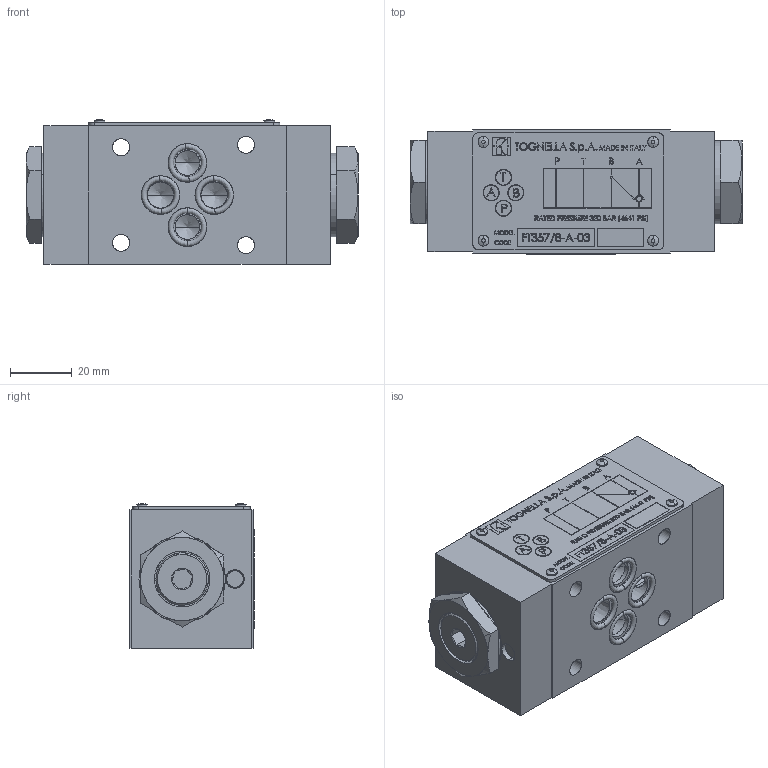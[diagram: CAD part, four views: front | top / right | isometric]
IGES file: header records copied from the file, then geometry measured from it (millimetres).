
Start section: SolidWorks IGES file using analytic representation for surfaces
Global section: file name: C:\Users\user\Desktop\FT357-8-A-03.IGS; native system: SolidWorks 2014; preprocessor: SolidWorks 2014; author: user; date: 140617.074014; units: millimetre
Bounding box: 107.6 x 40.38 x 46.96 mm (x, y, z)
Surface area: 48970.3 mm2 (no closed solid volume)
Topology: 0 solids, 0 shells, 1795 faces, 21446 edges, 21416 vertices
Faces by surface type: bspline 1369, revolution 426
